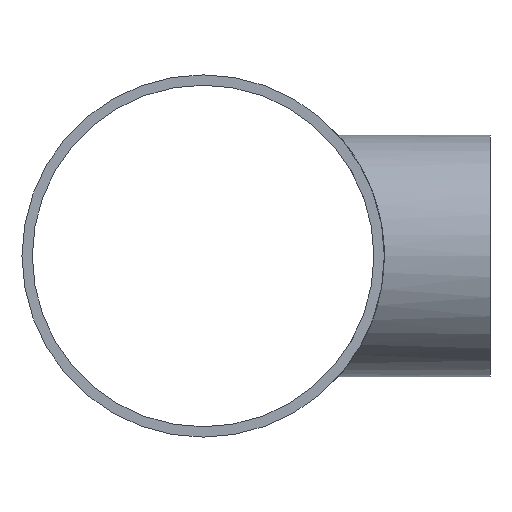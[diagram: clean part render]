
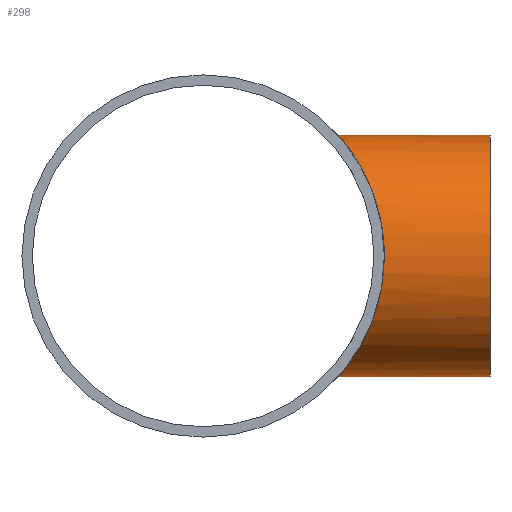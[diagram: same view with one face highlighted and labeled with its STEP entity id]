
A CAD part, left-side view. The second image highlights one B-rep face of the part: STEP entity #298.
In plain terms, the highlighted cylindrical face has radius 203.2 mm (diameter 406.4 mm), a full revolution.
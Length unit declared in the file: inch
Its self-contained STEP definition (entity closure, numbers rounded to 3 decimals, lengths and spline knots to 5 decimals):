
#45=B_SPLINE_CURVE_WITH_KNOTS('',3,(#511,#512,#513,#514,#515,#516,#517,
#518,#519,#520,#521,#522,#523,#524,#525,#526,#527,#528,#529,#530,#531,#532,
#533,#534,#535,#536,#537,#538,#539,#540,#541,#542,#543,#544,#545,#546,#547,
#548,#549,#550,#551,#552,#553,#554,#555,#556,#557,#558,#559,#560,#561,#562,
#563,#564,#565,#566,#567,#568,#569,#570,#571,#572,#573,#574,#575,#576,#577,
#578,#579,#580,#581,#582,#583,#584),.UNSPECIFIED.,.F.,.F.,(4,2,2,2,2,2,
2,2,2,2,2,2,2,2,2,2,2,2,2,2,2,2,2,2,2,2,2,2,2,2,2,2,2,2,2,2,4),(0.,2.0042,
4.0084,6.0126,8.0168,12.02519,16.03359,
19.99789,23.96219,25.94434,27.92649,29.90864,
31.89079,33.87294,35.85509,37.83724,39.81939,
43.78369,47.74799,51.75639,55.76479,57.76899,
59.77319,61.77738,63.78158,65.78578,67.78998,
69.79418,71.79838,75.80678,79.81517,83.77947,
87.74377,89.72592,91.70807,93.69022,95.67237),
 .UNSPECIFIED.);
#46=B_SPLINE_CURVE_WITH_KNOTS('',3,(#585,#586,#587,#588,#589,#590,#591,
#592,#593,#594,#595,#596,#597,#598,#599,#600,#601,#602,#603,#604,#605,#606,
#607,#608,#609,#610),.UNSPECIFIED.,.F.,.F.,(4,2,2,2,2,2,2,2,2,2,2,2,4),
(95.67237,97.65452,99.63667,101.61882,103.60097,
107.56527,111.52957,115.53797,119.54637,121.55057,
123.55477,125.55897,127.56317),.UNSPECIFIED.);
#56=LINE('',#739,#64);
#64=VECTOR('',#443,8.);
#72=CYLINDRICAL_SURFACE('',#352,8.);
#95=FACE_OUTER_BOUND('',#118,.T.);
#118=EDGE_LOOP('',(#253,#254,#255,#256,#257));
#140=CIRCLE('',#353,8.);
#153=VERTEX_POINT('',#509);
#154=VERTEX_POINT('',#510);
#164=VERTEX_POINT('',#738);
#180=EDGE_CURVE('',#153,#154,#45,.T.);
#181=EDGE_CURVE('',#154,#153,#46,.T.);
#195=EDGE_CURVE('',#154,#164,#56,.T.);
#196=EDGE_CURVE('',#164,#164,#140,.T.);
#253=ORIENTED_EDGE('',*,*,#180,.T.);
#254=ORIENTED_EDGE('',*,*,#195,.T.);
#255=ORIENTED_EDGE('',*,*,#196,.F.);
#256=ORIENTED_EDGE('',*,*,#195,.F.);
#257=ORIENTED_EDGE('',*,*,#181,.T.);
#298=ADVANCED_FACE('',(#95),#72,.T.);
#352=AXIS2_PLACEMENT_3D('',#737,#441,#442);
#353=AXIS2_PLACEMENT_3D('',#740,#444,#445);
#441=DIRECTION('center_axis',(0.,1.,0.));
#442=DIRECTION('ref_axis',(1.,0.,0.));
#443=DIRECTION('',(0.,-1.,0.));
#444=DIRECTION('center_axis',(0.,-1.,0.));
#445=DIRECTION('ref_axis',(1.,0.,0.));
#509=CARTESIAN_POINT('',(0.,-8.94427,-8.));
#510=CARTESIAN_POINT('',(-8.,-12.,0.));
#511=CARTESIAN_POINT('Ctrl Pts',(0.,-8.94427,
-8.));
#512=CARTESIAN_POINT('Ctrl Pts',(0.26302,-8.94427,-8.));
#513=CARTESIAN_POINT('Ctrl Pts',(0.52812,-8.95597,-7.98698));
#514=CARTESIAN_POINT('Ctrl Pts',(1.0577,-9.00273,-7.93423));
#515=CARTESIAN_POINT('Ctrl Pts',(1.32217,-9.03779,-7.89451));
#516=CARTESIAN_POINT('Ctrl Pts',(1.84595,-9.12913,-7.7887));
#517=CARTESIAN_POINT('Ctrl Pts',(2.10532,-9.1854,-7.72261));
#518=CARTESIAN_POINT('Ctrl Pts',(2.61499,-9.31544,-7.56525));
#519=CARTESIAN_POINT('Ctrl Pts',(2.8653,-9.38919,-7.47397));
#520=CARTESIAN_POINT('Ctrl Pts',(3.59732,-9.62955,-7.16518));
#521=CARTESIAN_POINT('Ctrl Pts',(4.06094,-9.81555,-6.91202));
#522=CARTESIAN_POINT('Ctrl Pts',(4.91673,-10.19941,-6.3319));
#523=CARTESIAN_POINT('Ctrl Pts',(5.30891,-10.39702,-6.00479));
#524=CARTESIAN_POINT('Ctrl Pts',(6.00097,-10.76694,-5.31274));
#525=CARTESIAN_POINT('Ctrl Pts',(6.32736,-10.95358,-4.92262));
#526=CARTESIAN_POINT('Ctrl Pts',(6.90876,-11.2994,-4.06654));
#527=CARTESIAN_POINT('Ctrl Pts',(7.16379,-11.45838,-3.60053));
#528=CARTESIAN_POINT('Ctrl Pts',(7.47438,-11.6559,-2.86435));
#529=CARTESIAN_POINT('Ctrl Pts',(7.56613,-11.71506,-2.61256));
#530=CARTESIAN_POINT('Ctrl Pts',(7.724,-11.81764,-2.10039));
#531=CARTESIAN_POINT('Ctrl Pts',(7.79012,-11.86105,-1.84001));
#532=CARTESIAN_POINT('Ctrl Pts',(7.89566,-11.93063,-1.31534));
#533=CARTESIAN_POINT('Ctrl Pts',(7.93509,-11.95681,-1.05101));
#534=CARTESIAN_POINT('Ctrl Pts',(7.98726,-11.99149,-0.5234));
#535=CARTESIAN_POINT('Ctrl Pts',(8.,-12.,-0.26012));
#536=CARTESIAN_POINT('Ctrl Pts',(8.,-12.,0.26012));
#537=CARTESIAN_POINT('Ctrl Pts',(7.98726,-11.99149,0.5234));
#538=CARTESIAN_POINT('Ctrl Pts',(7.93509,-11.95681,1.05101));
#539=CARTESIAN_POINT('Ctrl Pts',(7.89566,-11.93063,1.31534));
#540=CARTESIAN_POINT('Ctrl Pts',(7.79012,-11.86105,1.84001));
#541=CARTESIAN_POINT('Ctrl Pts',(7.724,-11.81764,2.10039));
#542=CARTESIAN_POINT('Ctrl Pts',(7.56613,-11.71506,2.61256));
#543=CARTESIAN_POINT('Ctrl Pts',(7.47438,-11.6559,2.86435));
#544=CARTESIAN_POINT('Ctrl Pts',(7.16379,-11.45838,3.60053));
#545=CARTESIAN_POINT('Ctrl Pts',(6.90876,-11.2994,4.06654));
#546=CARTESIAN_POINT('Ctrl Pts',(6.32736,-10.95358,4.92262));
#547=CARTESIAN_POINT('Ctrl Pts',(6.00097,-10.76694,5.31274));
#548=CARTESIAN_POINT('Ctrl Pts',(5.30891,-10.39702,6.00479));
#549=CARTESIAN_POINT('Ctrl Pts',(4.91673,-10.19941,6.3319));
#550=CARTESIAN_POINT('Ctrl Pts',(4.06094,-9.81555,6.91202));
#551=CARTESIAN_POINT('Ctrl Pts',(3.59732,-9.62955,7.16518));
#552=CARTESIAN_POINT('Ctrl Pts',(2.8653,-9.38919,7.47397));
#553=CARTESIAN_POINT('Ctrl Pts',(2.61499,-9.31544,7.56525));
#554=CARTESIAN_POINT('Ctrl Pts',(2.10532,-9.1854,7.72261));
#555=CARTESIAN_POINT('Ctrl Pts',(1.84595,-9.12913,7.7887));
#556=CARTESIAN_POINT('Ctrl Pts',(1.32217,-9.03779,7.89451));
#557=CARTESIAN_POINT('Ctrl Pts',(1.0577,-9.00273,7.93423));
#558=CARTESIAN_POINT('Ctrl Pts',(0.52812,-8.95597,7.98698));
#559=CARTESIAN_POINT('Ctrl Pts',(0.26302,-8.94427,8.));
#560=CARTESIAN_POINT('Ctrl Pts',(-0.26302,-8.94427,8.));
#561=CARTESIAN_POINT('Ctrl Pts',(-0.52812,-8.95597,7.98698));
#562=CARTESIAN_POINT('Ctrl Pts',(-1.0577,-9.00273,7.93423));
#563=CARTESIAN_POINT('Ctrl Pts',(-1.32217,-9.03779,7.89451));
#564=CARTESIAN_POINT('Ctrl Pts',(-1.84595,-9.12913,7.7887));
#565=CARTESIAN_POINT('Ctrl Pts',(-2.10532,-9.1854,7.72261));
#566=CARTESIAN_POINT('Ctrl Pts',(-2.61499,-9.31544,7.56525));
#567=CARTESIAN_POINT('Ctrl Pts',(-2.8653,-9.38919,7.47397));
#568=CARTESIAN_POINT('Ctrl Pts',(-3.59732,-9.62955,7.16518));
#569=CARTESIAN_POINT('Ctrl Pts',(-4.06094,-9.81555,6.91202));
#570=CARTESIAN_POINT('Ctrl Pts',(-4.91673,-10.19941,6.3319));
#571=CARTESIAN_POINT('Ctrl Pts',(-5.30891,-10.39702,6.00479));
#572=CARTESIAN_POINT('Ctrl Pts',(-6.00097,-10.76694,5.31274));
#573=CARTESIAN_POINT('Ctrl Pts',(-6.32736,-10.95358,4.92262));
#574=CARTESIAN_POINT('Ctrl Pts',(-6.90876,-11.2994,4.06654));
#575=CARTESIAN_POINT('Ctrl Pts',(-7.16379,-11.45838,3.60053));
#576=CARTESIAN_POINT('Ctrl Pts',(-7.47438,-11.6559,2.86435));
#577=CARTESIAN_POINT('Ctrl Pts',(-7.56613,-11.71506,2.61256));
#578=CARTESIAN_POINT('Ctrl Pts',(-7.724,-11.81764,2.10039));
#579=CARTESIAN_POINT('Ctrl Pts',(-7.79012,-11.86105,1.84001));
#580=CARTESIAN_POINT('Ctrl Pts',(-7.89566,-11.93063,1.31534));
#581=CARTESIAN_POINT('Ctrl Pts',(-7.93509,-11.95681,1.05101));
#582=CARTESIAN_POINT('Ctrl Pts',(-7.98726,-11.99149,0.5234));
#583=CARTESIAN_POINT('Ctrl Pts',(-8.,-12.,0.26012));
#584=CARTESIAN_POINT('Ctrl Pts',(-8.,-12.,0.));
#585=CARTESIAN_POINT('Ctrl Pts',(-8.,-12.,0.));
#586=CARTESIAN_POINT('Ctrl Pts',(-8.,-12.,-0.26012));
#587=CARTESIAN_POINT('Ctrl Pts',(-7.98726,-11.99149,-0.5234));
#588=CARTESIAN_POINT('Ctrl Pts',(-7.93509,-11.95681,-1.05101));
#589=CARTESIAN_POINT('Ctrl Pts',(-7.89566,-11.93063,-1.31534));
#590=CARTESIAN_POINT('Ctrl Pts',(-7.79012,-11.86105,-1.84001));
#591=CARTESIAN_POINT('Ctrl Pts',(-7.724,-11.81764,-2.10039));
#592=CARTESIAN_POINT('Ctrl Pts',(-7.56613,-11.71506,-2.61256));
#593=CARTESIAN_POINT('Ctrl Pts',(-7.47438,-11.6559,-2.86435));
#594=CARTESIAN_POINT('Ctrl Pts',(-7.16379,-11.45838,-3.60053));
#595=CARTESIAN_POINT('Ctrl Pts',(-6.90876,-11.2994,-4.06654));
#596=CARTESIAN_POINT('Ctrl Pts',(-6.32736,-10.95358,-4.92262));
#597=CARTESIAN_POINT('Ctrl Pts',(-6.00097,-10.76694,-5.31274));
#598=CARTESIAN_POINT('Ctrl Pts',(-5.30891,-10.39702,-6.00479));
#599=CARTESIAN_POINT('Ctrl Pts',(-4.91673,-10.19941,-6.3319));
#600=CARTESIAN_POINT('Ctrl Pts',(-4.06094,-9.81555,-6.91202));
#601=CARTESIAN_POINT('Ctrl Pts',(-3.59732,-9.62955,-7.16518));
#602=CARTESIAN_POINT('Ctrl Pts',(-2.8653,-9.38919,-7.47397));
#603=CARTESIAN_POINT('Ctrl Pts',(-2.61499,-9.31544,-7.56525));
#604=CARTESIAN_POINT('Ctrl Pts',(-2.10532,-9.1854,-7.72261));
#605=CARTESIAN_POINT('Ctrl Pts',(-1.84595,-9.12913,-7.7887));
#606=CARTESIAN_POINT('Ctrl Pts',(-1.32217,-9.03779,-7.89451));
#607=CARTESIAN_POINT('Ctrl Pts',(-1.0577,-9.00273,-7.93423));
#608=CARTESIAN_POINT('Ctrl Pts',(-0.52812,-8.95597,-7.98698));
#609=CARTESIAN_POINT('Ctrl Pts',(-0.26302,-8.94427,-8.));
#610=CARTESIAN_POINT('Ctrl Pts',(0.,-8.94427,
-8.));
#737=CARTESIAN_POINT('Origin',(0.,-19.,0.));
#738=CARTESIAN_POINT('',(-8.,-19.,0.));
#739=CARTESIAN_POINT('',(-8.,-19.,0.));
#740=CARTESIAN_POINT('Origin',(0.,-19.,0.));
